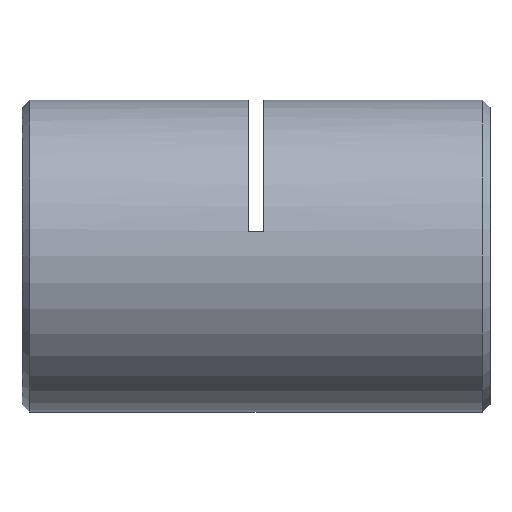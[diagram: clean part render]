
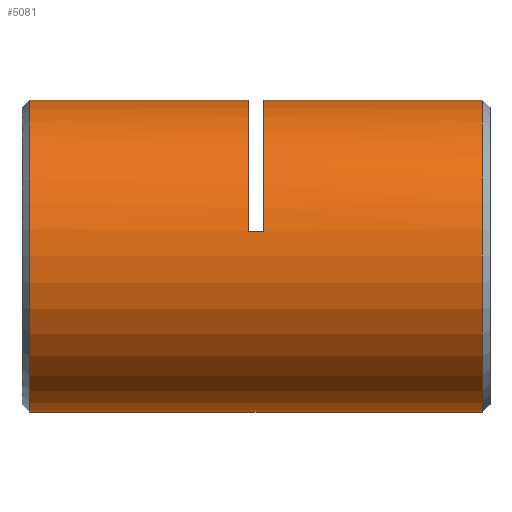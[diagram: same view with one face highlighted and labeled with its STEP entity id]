
A CAD part, left-side view. The second image highlights one B-rep face of the part: STEP entity #5081.
In plain terms, the highlighted cylindrical face has radius 8 mm (diameter 16 mm), a partial arc.
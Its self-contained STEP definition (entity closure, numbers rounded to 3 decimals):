
#12 = LINE ( 'NONE', #4392, #2478 ) ;
#92 = VERTEX_POINT ( 'NONE', #5847 ) ;
#240 = LINE ( 'NONE', #1350, #954 ) ;
#264 = VERTEX_POINT ( 'NONE', #3535 ) ;
#522 = EDGE_CURVE ( 'NONE', #1383, #2035, #2727, .T. ) ;
#524 = AXIS2_PLACEMENT_3D ( 'NONE', #2861, #4482, #1434 ) ;
#556 = ORIENTED_EDGE ( 'NONE', *, *, #3138, .F. ) ;
#612 = CARTESIAN_POINT ( 'NONE',  ( 0., 0.25, 0. ) ) ;
#620 = DIRECTION ( 'NONE',  ( 0., 1., 0. ) ) ;
#726 = CARTESIAN_POINT ( 'NONE',  ( 0., 0.65, 0. ) ) ;
#890 = ORIENTED_EDGE ( 'NONE', *, *, #2756, .T. ) ;
#954 = VECTOR ( 'NONE', #5529, 1000. ) ;
#993 = EDGE_LOOP ( 'NONE', ( #556, #2752, #6578, #6138, #890, #5167, #3516, #3192 ) ) ;
#1108 = DIRECTION ( 'NONE',  ( 0., 1., 0. ) ) ;
#1276 = CARTESIAN_POINT ( 'NONE',  ( 0., 0.65, -8. ) ) ;
#1349 = DIRECTION ( 'NONE',  ( 0., 1., 0. ) ) ;
#1350 = CARTESIAN_POINT ( 'NONE',  ( -7.897, 12.25, 1.28 ) ) ;
#1383 = VERTEX_POINT ( 'NONE', #5001 ) ;
#1434 = DIRECTION ( 'NONE',  ( 0., 0., -1. ) ) ;
#1655 = EDGE_CURVE ( 'NONE', #5655, #1383, #3427, .T. ) ;
#1691 = CARTESIAN_POINT ( 'NONE',  ( 0., 12.65, 0. ) ) ;
#2035 = VERTEX_POINT ( 'NONE', #3248 ) ;
#2155 = EDGE_CURVE ( 'NONE', #3354, #4038, #12, .T. ) ;
#2285 = DIRECTION ( 'NONE',  ( 0., 0., 1. ) ) ;
#2478 = VECTOR ( 'NONE', #1349, 1000. ) ;
#2568 = DIRECTION ( 'NONE',  ( 0., 1., 0. ) ) ;
#2599 = CIRCLE ( 'NONE', #524, 8. ) ;
#2727 = LINE ( 'NONE', #5468, #2890 ) ;
#2752 = ORIENTED_EDGE ( 'NONE', *, *, #1655, .T. ) ;
#2756 = EDGE_CURVE ( 'NONE', #264, #92, #240, .T. ) ;
#2832 = AXIS2_PLACEMENT_3D ( 'NONE', #3668, #620, #2285 ) ;
#2861 = CARTESIAN_POINT ( 'NONE',  ( 0., 23.85, 0. ) ) ;
#2890 = VECTOR ( 'NONE', #5402, 1000. ) ;
#3138 = EDGE_CURVE ( 'NONE', #5655, #6087, #3580, .T. ) ;
#3192 = ORIENTED_EDGE ( 'NONE', *, *, #5716, .T. ) ;
#3248 = CARTESIAN_POINT ( 'NONE',  ( 0., 11.85, 8. ) ) ;
#3354 = VERTEX_POINT ( 'NONE', #4529 ) ;
#3427 = CIRCLE ( 'NONE', #6335, 8. ) ;
#3516 = ORIENTED_EDGE ( 'NONE', *, *, #2155, .T. ) ;
#3535 = CARTESIAN_POINT ( 'NONE',  ( -7.897, 11.85, 1.28 ) ) ;
#3580 = LINE ( 'NONE', #5647, #5369 ) ;
#3668 = CARTESIAN_POINT ( 'NONE',  ( 0., 11.85, 0. ) ) ;
#3883 = CYLINDRICAL_SURFACE ( 'NONE', #5748, 8. ) ;
#4038 = VERTEX_POINT ( 'NONE', #6353 ) ;
#4234 = DIRECTION ( 'NONE',  ( 0., 1., 0. ) ) ;
#4306 = CIRCLE ( 'NONE', #2832, 8. ) ;
#4392 = CARTESIAN_POINT ( 'NONE',  ( 0., 0.25, 8. ) ) ;
#4482 = DIRECTION ( 'NONE',  ( 0., -1., 0. ) ) ;
#4484 = EDGE_CURVE ( 'NONE', #264, #2035, #4306, .T. ) ;
#4529 = CARTESIAN_POINT ( 'NONE',  ( 0., 12.65, 8. ) ) ;
#4607 = AXIS2_PLACEMENT_3D ( 'NONE', #1691, #4234, #5281 ) ;
#4640 = FACE_OUTER_BOUND ( 'NONE', #993, .T. ) ;
#4796 = DIRECTION ( 'NONE',  ( 0., 0., 1. ) ) ;
#4897 = DIRECTION ( 'NONE',  ( 0., 0., 1. ) ) ;
#5001 = CARTESIAN_POINT ( 'NONE',  ( 0., 0.65, 8. ) ) ;
#5081 = ADVANCED_FACE ( 'NONE', ( #4640 ), #3883, .T. ) ;
#5167 = ORIENTED_EDGE ( 'NONE', *, *, #5532, .T. ) ;
#5281 = DIRECTION ( 'NONE',  ( 0., 0., 1. ) ) ;
#5369 = VECTOR ( 'NONE', #2568, 1000. ) ;
#5402 = DIRECTION ( 'NONE',  ( 0., 1., 0. ) ) ;
#5426 = CIRCLE ( 'NONE', #4607, 8. ) ;
#5468 = CARTESIAN_POINT ( 'NONE',  ( 0., 0.25, 8. ) ) ;
#5529 = DIRECTION ( 'NONE',  ( 0., 1., 0. ) ) ;
#5532 = EDGE_CURVE ( 'NONE', #92, #3354, #5426, .T. ) ;
#5647 = CARTESIAN_POINT ( 'NONE',  ( 0., 0.25, -8. ) ) ;
#5655 = VERTEX_POINT ( 'NONE', #1276 ) ;
#5716 = EDGE_CURVE ( 'NONE', #4038, #6087, #2599, .T. ) ;
#5748 = AXIS2_PLACEMENT_3D ( 'NONE', #612, #1108, #4897 ) ;
#5822 = CARTESIAN_POINT ( 'NONE',  ( 0., 23.85, -8. ) ) ;
#5847 = CARTESIAN_POINT ( 'NONE',  ( -7.897, 12.65, 1.28 ) ) ;
#6087 = VERTEX_POINT ( 'NONE', #5822 ) ;
#6138 = ORIENTED_EDGE ( 'NONE', *, *, #4484, .F. ) ;
#6328 = DIRECTION ( 'NONE',  ( 0., 1., 0. ) ) ;
#6335 = AXIS2_PLACEMENT_3D ( 'NONE', #726, #6328, #4796 ) ;
#6353 = CARTESIAN_POINT ( 'NONE',  ( 0., 23.85, 8. ) ) ;
#6578 = ORIENTED_EDGE ( 'NONE', *, *, #522, .T. ) ;
